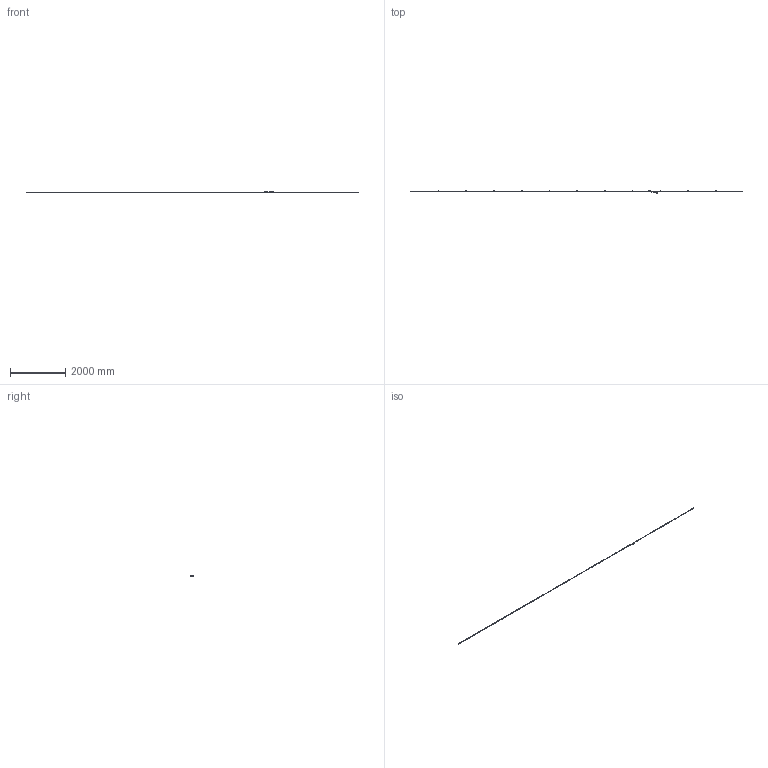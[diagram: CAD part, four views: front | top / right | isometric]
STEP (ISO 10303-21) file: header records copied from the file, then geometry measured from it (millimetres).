
FILE_DESCRIPTION(('Creo Elements/Direct Modeling STEP Export'),'2;1');
FILE_NAME('ST1300-11800D.stp','2018-03-01T16:59:41',(''),(''),'Creo Elements/Direct Modeling STEP processor for AP214 (Solid Model)','Creo Elements/Direct Modeling 18.1B 29-Sep-2012 (C) Parametric Technology GmbH','');
FILE_SCHEMA(('AUTOMOTIVE_DESIGN { 1 0 10303 214 1 1 1 1 }'));
Products named in the file (4): Scale_11800; Detector_Head; Connector; ST1300-11800D
Assembly tree (3 placements, depth 2):
  ST1300-11800D
    Connector
    Detector_Head
    Scale_11800
Bounding box: 11973 x 88.3 x 30.1 mm (x, y, z)
Volume: 1009769.4 mm3; surface area: 640106.8 mm2
Topology: 2 solids, 10 shells, 6868 faces, 18356 edges, 11805 vertices
Faces by surface type: plane 3056, cylinder 2402, extrusion 1170, cone 143, torus 70, bspline 23, revolution 4
Entity records: 221912 total; most frequent: CARTESIAN_POINT 56990, ORIENTED_EDGE 36688, DIRECTION 29060, EDGE_CURVE 18340, VERTEX_POINT 11805, VECTOR 10900, LINE 9772, AXIS2_PLACEMENT_3D 9077
